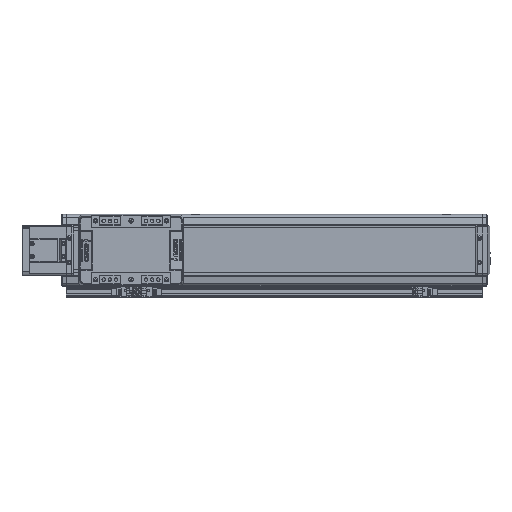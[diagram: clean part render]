
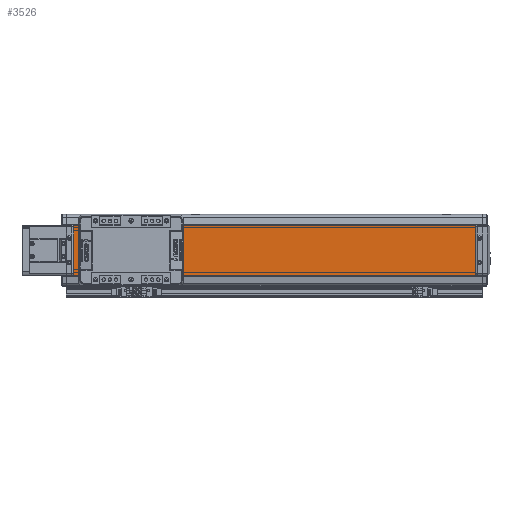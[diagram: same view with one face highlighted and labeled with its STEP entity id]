
A CAD part, top view. The second image highlights one B-rep face of the part: STEP entity #3526.
In plain terms, the highlighted planar face has unit normal (0, 0, 1).
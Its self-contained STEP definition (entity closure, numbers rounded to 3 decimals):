
#3526=ADVANCED_FACE('',(#9623),#9624,.T.);
#9623=FACE_OUTER_BOUND('',#19140,.T.);
#9624=PLANE('',#19141);
#19140=EDGE_LOOP('',(#29216,#29217,#29218,#29219));
#19141=AXIS2_PLACEMENT_3D('',#29220,#29221,#29222);
#29216=ORIENTED_EDGE('',*,*,#55747,.T.);
#29217=ORIENTED_EDGE('',*,*,#55748,.F.);
#29218=ORIENTED_EDGE('',*,*,#55749,.T.);
#29219=ORIENTED_EDGE('',*,*,#55750,.T.);
#29220=CARTESIAN_POINT('',(-580.,0.,20.15));
#29221=DIRECTION('',(0.,0.,1.0));
#29222=DIRECTION('',(0.,-1.0,0.));
#55747=EDGE_CURVE('',#66376,#66377,#66378,.T.);
#55748=EDGE_CURVE('',#66379,#66377,#66380,.T.);
#55749=EDGE_CURVE('',#66379,#66381,#66382,.T.);
#55750=EDGE_CURVE('',#66381,#66376,#66383,.T.);
#66376=VERTEX_POINT('',#81981);
#66377=VERTEX_POINT('',#81982);
#66378=LINE('',#81983,#81984);
#66379=VERTEX_POINT('',#81985);
#66380=LINE('',#81986,#81987);
#66381=VERTEX_POINT('',#81988);
#66382=LINE('',#81989,#81990);
#66383=LINE('',#81991,#81992);
#81981=CARTESIAN_POINT('',(0.,-35.,20.15));
#81982=CARTESIAN_POINT('',(0.,35.,20.15));
#81983=CARTESIAN_POINT('',(0.,35.,20.15));
#81984=VECTOR('',#103386,10.0);
#81985=CARTESIAN_POINT('',(-580.,35.,20.15));
#81986=CARTESIAN_POINT('',(-580.,35.,20.15));
#81987=VECTOR('',#103387,10.0);
#81988=CARTESIAN_POINT('',(-580.,-35.,20.15));
#81989=CARTESIAN_POINT('',(-580.,35.,20.15));
#81990=VECTOR('',#103388,10.0);
#81991=CARTESIAN_POINT('',(-580.,-35.,20.15));
#81992=VECTOR('',#103389,10.0);
#103386=DIRECTION('',(0.,1.0,0.));
#103387=DIRECTION('',(1.0,0.,0.));
#103388=DIRECTION('',(0.,-1.0,0.));
#103389=DIRECTION('',(1.0,0.,0.));
